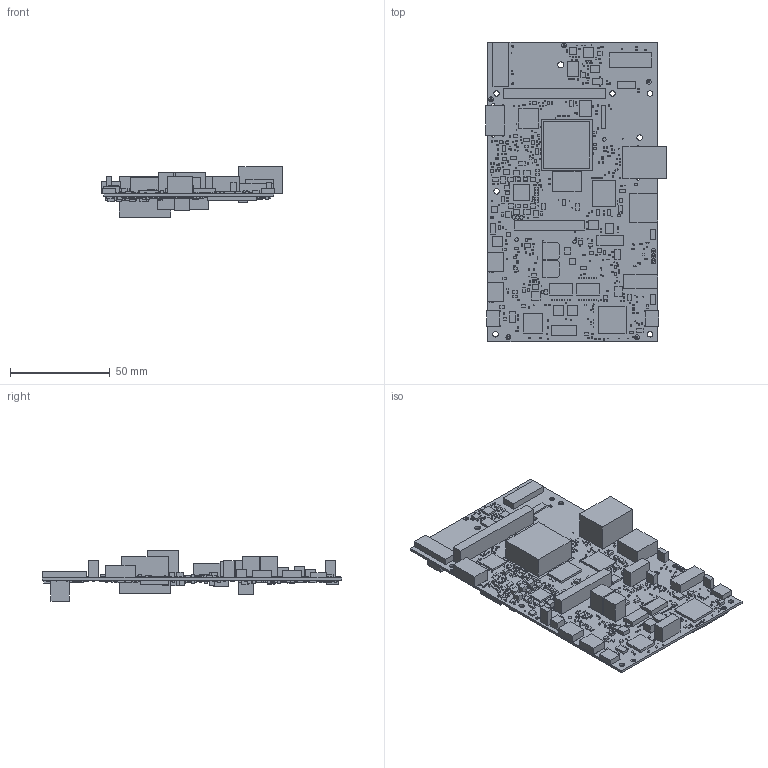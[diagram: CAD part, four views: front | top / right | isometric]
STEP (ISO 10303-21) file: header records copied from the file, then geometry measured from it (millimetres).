
FILE_DESCRIPTION(/* description */ ('PCB Design'),/* implementation_level */ '2;1');
FILE_NAME(/* name */ 'PROC135E1_BRD',/* time_stamp */ '2022-07-12T10:38:13+05:00',/* author */ ('satheesh.m'),/* organization */ (''),/* preprocessor_version */ 'ST-DEVELOPER v16',/* originating_system */ 'allegro_17.4P001',/* authorisation */ '');
FILE_SCHEMA (('AUTOMOTIVE_DESIGN { 1 0 10303 214 3 1 1 }'));
Length unit declared in the file: millimetre
Products named in the file (131): PROC135E1_BRD; BOARD_OUTLINE; COMPONENTS; TSSOP24_25-59_315X180_1-2; TSSOP14_25-59_205X180_1-2; OSC4_ECS-327MVATX-2_100X80_SMD_1; OSC4_KC2016K_80X60_SMD_0-8; EMIFIL_NFM18C_0603_0-7; EMIFIL_NFM15CC_0402_0-5; CON_MINIPCI75_2199119-4_S_R_S_3-2_2230; QFN14_19-68_145X145; RES_CST0612_0612-4_0-9; SON6_25-59_85X85_0-8; SOIC8_1-8; SON6_CSD17313Q2_80X80; HDR_2X5_PEC05DAAN_S_T_8-6; CON_USBC24_2012670_S_R_S_3-9; VQFN56_TPS65987D_280X280_1; CON_BTOB2X25_DF40C-50DP_P_S_S_1-3; CAPAE_FCASE_10-5; DIO_SOD323_1; RES1206_1; IND_XAL7070_300X310_SMD_7; VSON8_CSD173_130X130; VSON8_CSD173_130X130_1-1; VQFN24_LM5141_160X160_1; TP40_SMD; HDR_1X2_61300211121_S_T_8-6; EMIFIL_BLM18P_0603_0-8; SC70-5; MSOP10_19-68_120X120_1-1; CAP0402_1; BGASKT484_GT-BGA-2001_910X910_10-7; TP30_SMD; IND1008_1-2; VSSOP8_19-68_85X95; UDFN8_19-68_120X80_0-6; TVSOP14_15-74_180X150_1-2; QFN20_19-68_185X145_1; CON_FLEX1X22_54548-2271_S_R_S_1-3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
Assembly tree (1427 placements, depth 3):
  PROC135E1_BRD
    BOARD_OUTLINE
    COMPONENTS
      TSSOP24_25-59_315X180_1-2
      TSSOP14_25-59_205X180_1-2
      OSC4_ECS-327MVATX-2_100X80_SMD_1
      OSC4_KC2016K_80X60_SMD_0-8  x2
      EMIFIL_NFM18C_0603_0-7  x5
      EMIFIL_NFM15CC_0402_0-5  x17
      CON_MINIPCI75_2199119-4_S_R_S_3-2_2230
      QFN14_19-68_145X145
      RES_CST0612_0612-4_0-9  x2
      SON6_25-59_85X85_0-8  x2
      SOIC8_1-8
      SON6_CSD17313Q2_80X80  x2
      HDR_2X5_PEC05DAAN_S_T_8-6
      CON_USBC24_2012670_S_R_S_3-9  x2
      VQFN56_TPS65987D_280X280_1
      CON_BTOB2X25_DF40C-50DP_P_S_S_1-3
      CAPAE_FCASE_10-5  x2
      DIO_SOD323_1
      RES1206_1
      IND_XAL7070_300X310_SMD_7
      VSON8_CSD173_130X130
      VSON8_CSD173_130X130_1-1
      VQFN24_LM5141_160X160_1
      TP40_SMD  x8
      HDR_1X2_61300211121_S_T_8-6
      EMIFIL_BLM18P_0603_0-8  x3
      SC70-5  x2
      MSOP10_19-68_120X120_1-1
      CAP0402_1  x7
      BGASKT484_GT-BGA-2001_910X910_10-7
      TP30_SMD  x5
      IND1008_1-2  x5
      VSSOP8_19-68_85X95
      UDFN8_19-68_120X80_0-6
      TVSOP14_15-74_180X150_1-2
      QFN20_19-68_185X145_1
      CON_FLEX1X22_54548-2271_S_R_S_1-3
      TQFN42_19-68_140X360_0-8
      VQFN56_19-68_320X320_0-9_EP6
      WFBGA200_MT53E2G32D4DE_400X570_1-2
      FBGA484_31-49_710X710_2-7
      WSON6_19-68_60X60
      RESA_EXB_0201-4_0-5  x6
      UQFN12_TXB0104RUT_70X80_0-6
      CON_USBA4_629104151_S_R_S_7-4
      WSON8_19-68_80X80_0-8
      WSON6_CSD13202Q2_80X80_0-8  x6
      IND_XFL4020_170X170_SMD_2-1
      VQFNHR15_TPS630701_100X120_1
      CON_PMC2X20_QSH-020-01-D-DP-A_S_S_S_3-4
      TPBGA24_39-37_240X320_1-2
      HDR_14X2_100_S_T
      QFN72_19-68_390X390_0-9
      IND0603  x3
      CON_SD9_MEM2051-00-195-00_S_R_S_2-1
      HDR_1X2_90120-0122_S_T_5-6  x3
      TP_40X65  x8
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Bounding box: 90.23 x 150.1 x 25.27 mm (x, y, z)
Surface area: 55002.8 mm2 (no closed solid volume)
Topology: 0 solids, 1427 shells, 8692 faces, 19101 edges, 11676 vertices
Faces by surface type: plane 8142, cylinder 550
Entity records: 47168 total; most frequent: DIRECTION 5639, ORIENTED_EDGE 5220, CARTESIAN_POINT 4730, AXIS2_PLACEMENT_3D 4640, EDGE_CURVE 2900, VERTEX_POINT 2320, VECTOR 2244, LINE 2244
